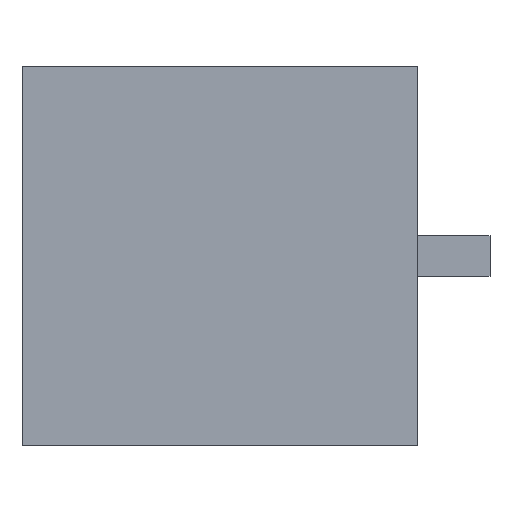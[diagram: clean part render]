
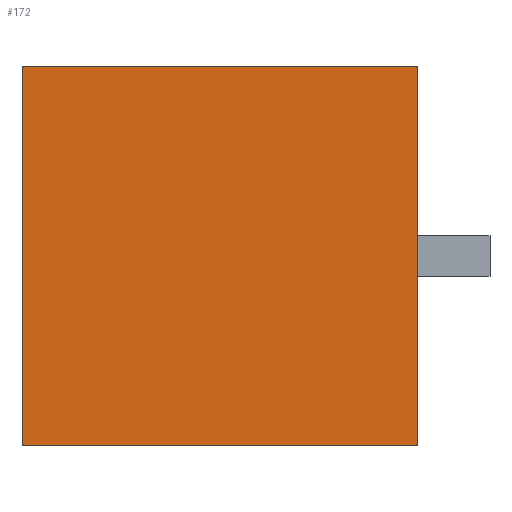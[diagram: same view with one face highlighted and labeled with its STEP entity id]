
A CAD part, front view. The second image highlights one B-rep face of the part: STEP entity #172.
In plain terms, the highlighted planar face has unit normal (0, -1, 0).
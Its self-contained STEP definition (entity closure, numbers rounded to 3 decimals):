
#21 = EDGE_CURVE('',#22,#24,#26,.T.);
#22 = VERTEX_POINT('',#23);
#23 = CARTESIAN_POINT('',(-32.5,-17.8,-31.25));
#24 = VERTEX_POINT('',#25);
#25 = CARTESIAN_POINT('',(-32.5,-17.8,31.25));
#26 = SURFACE_CURVE('',#27,(#31,#43),.PCURVE_S1.);
#27 = LINE('',#28,#29);
#28 = CARTESIAN_POINT('',(-32.5,-17.8,-31.25));
#29 = VECTOR('',#30,1.);
#30 = DIRECTION('',(0.,0.,1.));
#31 = PCURVE('',#32,#37);
#32 = PLANE('',#33);
#33 = AXIS2_PLACEMENT_3D('',#34,#35,#36);
#34 = CARTESIAN_POINT('',(-32.5,-17.8,-31.25));
#35 = DIRECTION('',(1.,0.,0.));
#36 = DIRECTION('',(0.,0.,1.));
#37 = DEFINITIONAL_REPRESENTATION('',(#38),#42);
#38 = LINE('',#39,#40);
#39 = CARTESIAN_POINT('',(0.,0.));
#40 = VECTOR('',#41,1.);
#41 = DIRECTION('',(1.,0.));
#42 = ( GEOMETRIC_REPRESENTATION_CONTEXT(2) 
PARAMETRIC_REPRESENTATION_CONTEXT() REPRESENTATION_CONTEXT('2D SPACE',''
  ) );
#43 = PCURVE('',#44,#49);
#44 = PLANE('',#45);
#45 = AXIS2_PLACEMENT_3D('',#46,#47,#48);
#46 = CARTESIAN_POINT('',(-32.5,-17.8,-31.25));
#47 = DIRECTION('',(0.,1.,0.));
#48 = DIRECTION('',(0.,0.,1.));
#49 = DEFINITIONAL_REPRESENTATION('',(#50),#54);
#50 = LINE('',#51,#52);
#51 = CARTESIAN_POINT('',(0.,0.));
#52 = VECTOR('',#53,1.);
#53 = DIRECTION('',(1.,0.));
#54 = ( GEOMETRIC_REPRESENTATION_CONTEXT(2) 
PARAMETRIC_REPRESENTATION_CONTEXT() REPRESENTATION_CONTEXT('2D SPACE',''
  ) );
#72 = PLANE('',#73);
#73 = AXIS2_PLACEMENT_3D('',#74,#75,#76);
#74 = CARTESIAN_POINT('',(-32.5,-17.8,-31.25));
#75 = DIRECTION('',(0.,0.,1.));
#76 = DIRECTION('',(1.,0.,0.));
#126 = PLANE('',#127);
#127 = AXIS2_PLACEMENT_3D('',#128,#129,#130);
#128 = CARTESIAN_POINT('',(-32.5,-17.8,31.25));
#129 = DIRECTION('',(0.,0.,1.));
#130 = DIRECTION('',(1.,0.,0.));
#172 = ADVANCED_FACE('',(#173),#44,.F.);
#173 = FACE_BOUND('',#174,.F.);
#174 = EDGE_LOOP('',(#175,#198,#199,#222));
#175 = ORIENTED_EDGE('',*,*,#176,.F.);
#176 = EDGE_CURVE('',#22,#177,#179,.T.);
#177 = VERTEX_POINT('',#178);
#178 = CARTESIAN_POINT('',(32.5,-17.8,-31.25));
#179 = SURFACE_CURVE('',#180,(#184,#191),.PCURVE_S1.);
#180 = LINE('',#181,#182);
#181 = CARTESIAN_POINT('',(-32.5,-17.8,-31.25));
#182 = VECTOR('',#183,1.);
#183 = DIRECTION('',(1.,0.,0.));
#184 = PCURVE('',#44,#185);
#185 = DEFINITIONAL_REPRESENTATION('',(#186),#190);
#186 = LINE('',#187,#188);
#187 = CARTESIAN_POINT('',(0.,0.));
#188 = VECTOR('',#189,1.);
#189 = DIRECTION('',(0.,1.));
#190 = ( GEOMETRIC_REPRESENTATION_CONTEXT(2) 
PARAMETRIC_REPRESENTATION_CONTEXT() REPRESENTATION_CONTEXT('2D SPACE',''
  ) );
#191 = PCURVE('',#72,#192);
#192 = DEFINITIONAL_REPRESENTATION('',(#193),#197);
#193 = LINE('',#194,#195);
#194 = CARTESIAN_POINT('',(0.,0.));
#195 = VECTOR('',#196,1.);
#196 = DIRECTION('',(1.,0.));
#197 = ( GEOMETRIC_REPRESENTATION_CONTEXT(2) 
PARAMETRIC_REPRESENTATION_CONTEXT() REPRESENTATION_CONTEXT('2D SPACE',''
  ) );
#198 = ORIENTED_EDGE('',*,*,#21,.T.);
#199 = ORIENTED_EDGE('',*,*,#200,.T.);
#200 = EDGE_CURVE('',#24,#201,#203,.T.);
#201 = VERTEX_POINT('',#202);
#202 = CARTESIAN_POINT('',(32.5,-17.8,31.25));
#203 = SURFACE_CURVE('',#204,(#208,#215),.PCURVE_S1.);
#204 = LINE('',#205,#206);
#205 = CARTESIAN_POINT('',(-32.5,-17.8,31.25));
#206 = VECTOR('',#207,1.);
#207 = DIRECTION('',(1.,0.,0.));
#208 = PCURVE('',#44,#209);
#209 = DEFINITIONAL_REPRESENTATION('',(#210),#214);
#210 = LINE('',#211,#212);
#211 = CARTESIAN_POINT('',(62.5,0.));
#212 = VECTOR('',#213,1.);
#213 = DIRECTION('',(0.,1.));
#214 = ( GEOMETRIC_REPRESENTATION_CONTEXT(2) 
PARAMETRIC_REPRESENTATION_CONTEXT() REPRESENTATION_CONTEXT('2D SPACE',''
  ) );
#215 = PCURVE('',#126,#216);
#216 = DEFINITIONAL_REPRESENTATION('',(#217),#221);
#217 = LINE('',#218,#219);
#218 = CARTESIAN_POINT('',(0.,0.));
#219 = VECTOR('',#220,1.);
#220 = DIRECTION('',(1.,0.));
#221 = ( GEOMETRIC_REPRESENTATION_CONTEXT(2) 
PARAMETRIC_REPRESENTATION_CONTEXT() REPRESENTATION_CONTEXT('2D SPACE',''
  ) );
#222 = ORIENTED_EDGE('',*,*,#223,.F.);
#223 = EDGE_CURVE('',#177,#201,#224,.T.);
#224 = SURFACE_CURVE('',#225,(#229,#236),.PCURVE_S1.);
#225 = LINE('',#226,#227);
#226 = CARTESIAN_POINT('',(32.5,-17.8,-31.25));
#227 = VECTOR('',#228,1.);
#228 = DIRECTION('',(0.,0.,1.));
#229 = PCURVE('',#44,#230);
#230 = DEFINITIONAL_REPRESENTATION('',(#231),#235);
#231 = LINE('',#232,#233);
#232 = CARTESIAN_POINT('',(0.,65.));
#233 = VECTOR('',#234,1.);
#234 = DIRECTION('',(1.,0.));
#235 = ( GEOMETRIC_REPRESENTATION_CONTEXT(2) 
PARAMETRIC_REPRESENTATION_CONTEXT() REPRESENTATION_CONTEXT('2D SPACE',''
  ) );
#236 = PCURVE('',#237,#242);
#237 = PLANE('',#238);
#238 = AXIS2_PLACEMENT_3D('',#239,#240,#241);
#239 = CARTESIAN_POINT('',(32.5,-17.8,-31.25));
#240 = DIRECTION('',(1.,0.,0.));
#241 = DIRECTION('',(0.,0.,1.));
#242 = DEFINITIONAL_REPRESENTATION('',(#243),#247);
#243 = LINE('',#244,#245);
#244 = CARTESIAN_POINT('',(0.,0.));
#245 = VECTOR('',#246,1.);
#246 = DIRECTION('',(1.,0.));
#247 = ( GEOMETRIC_REPRESENTATION_CONTEXT(2) 
PARAMETRIC_REPRESENTATION_CONTEXT() REPRESENTATION_CONTEXT('2D SPACE',''
  ) );
